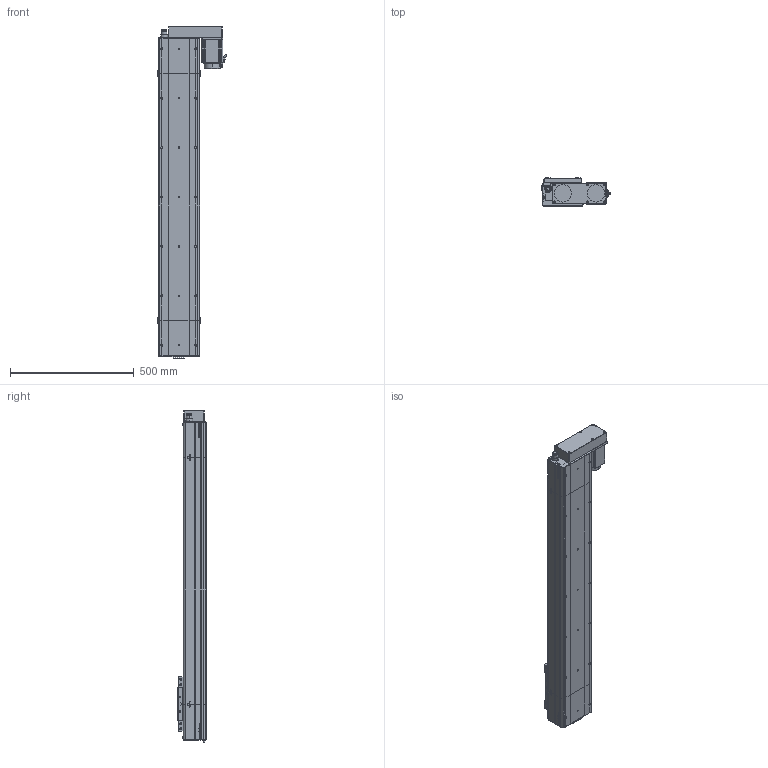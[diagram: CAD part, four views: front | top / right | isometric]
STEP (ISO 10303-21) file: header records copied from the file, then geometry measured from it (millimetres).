
FILE_DESCRIPTION (( 'STEP AP214' ), '1' );
FILE_NAME ('D17 CSH BL S1000.STEP', '2010-06-29T14:21:56', ( 'Christophe Gaillard' ), ( 'SGA' ), 'SwSTEP 2.0', 'SolidWorks 2010', '' );
FILE_SCHEMA (( 'AUTOMOTIVE_DESIGN' ));
Length unit declared in the file: millimetre
Products named in the file (29): glissiere_Default; D17 CSH BL S1000; Head D17 BL_Default; Conecteur2_Default; couvercle D17 head BL_Default; vis M5 L15_Default; avant 90BLDC100A-640; Moteur motionking 90BLDC100A-640; plaque de serrage D17 head BL_Default; vis M5 L60_Default; vis M5 L47_Default; Support Moteur BL_Default; corps 90BLDC100A-640; couvercle D17-1000_Default; Conecteur_Default; Corp L1000_Default; Tail D17_Default; ecrou_Default; Corp D17 S1000_Default; Corp Tail D17_Default; Plaque de bout D17 head BL_Default; Plaque de bout D17_Default; codeur 90BLDC100-640; Corp Head  D17 BL_Default; couvercle D17_Default; plaque de serrage D17_Default; Chariot D17_Default; support chariot D17_Default; chariot D17_Default
Assembly tree (52 placements, depth 4):
  D17 CSH BL S1000
    Chariot D17_Default
      vis M5 L15_Default  x8
      support chariot D17_Default
      glissiere_Default
      chariot D17_Default
    Head D17 BL_Default
      ecrou_Default  x4
      Plaque de bout D17 head BL_Default
      vis M5 L60_Default  x4
      Corp Head  D17 BL_Default
      Support Moteur BL_Default
      plaque de serrage D17 head BL_Default
      couvercle D17 head BL_Default
      vis M5 L15_Default  x4
      Moteur motionking 90BLDC100A-640
        codeur 90BLDC100-640
        avant 90BLDC100A-640
        Conecteur2_Default
        corps 90BLDC100A-640
        Conecteur_Default
      vis M5 L47_Default  x2
    Corp D17 S1000_Default
      couvercle D17-1000_Default
      Corp L1000_Default
    Tail D17_Default
      vis M5 L15_Default  x6
      couvercle D17_Default
      Corp Tail D17_Default
      plaque de serrage D17_Default
      Plaque de bout D17_Default
Bounding box: 279.16 x 114 x 1344.2 mm (x, y, z)
Volume: 9742445.8 mm3; surface area: 1721475.6 mm2
Topology: 89 solids, 89 shells, 3187 faces, 8026 edges, 5234 vertices
Faces by surface type: plane 1888, bspline 758, cylinder 422, torus 67, cone 48, sphere 4
Entity records: 149162 total; most frequent: CARTESIAN_POINT 81157, ORIENTED_EDGE 13592, DIRECTION 9844, EDGE_CURVE 6796, VECTOR 4578, LINE 4578, VERTEX_POINT 4502, EDGE_LOOP 2886
